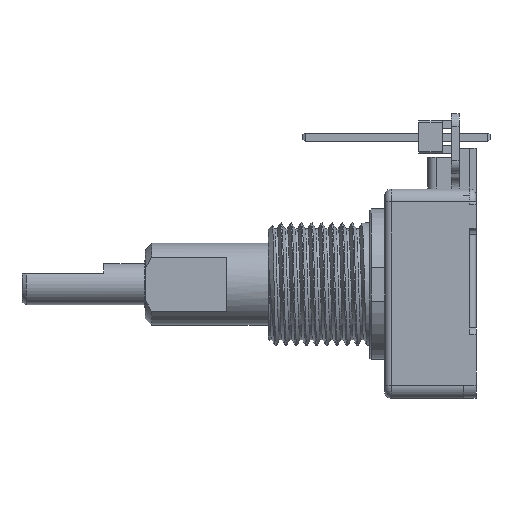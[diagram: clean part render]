
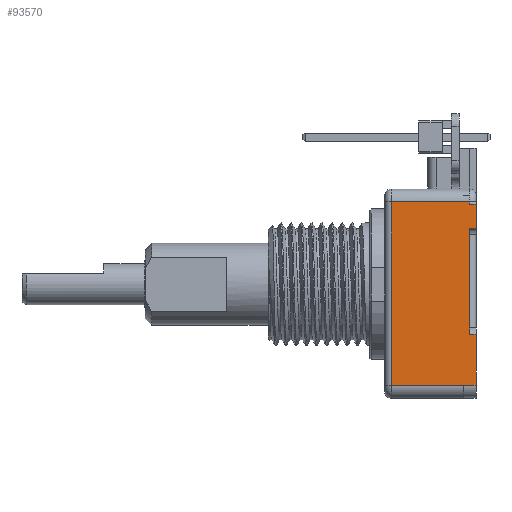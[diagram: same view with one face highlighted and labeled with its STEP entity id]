
A CAD part, left-side view. The second image highlights one B-rep face of the part: STEP entity #93570.
In plain terms, the highlighted planar face has unit normal (-1, 0, 0).
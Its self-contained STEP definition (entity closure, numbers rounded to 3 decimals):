
#57470=CARTESIAN_POINT('',(-6.2,-0.5,-7.87));
#57480=VERTEX_POINT('',#57470);
#58300=CARTESIAN_POINT('',(-6.2,-0.5,6.4));
#58310=VERTEX_POINT('',#58300);
#58340=CARTESIAN_POINT('',(-6.2,-0.5,-7.87));
#58350=DIRECTION('',(0.,0.,1.));
#58360=VECTOR('',#58350,1.);
#58370=LINE('',#58340,#58360);
#58380=EDGE_CURVE('',#57480,#58310,#58370,.T.);
#62470=CARTESIAN_POINT('',(-6.2,-6.6,6.4));
#62480=VERTEX_POINT('',#62470);
#62510=CARTESIAN_POINT('',(-6.2,-0.5,6.4));
#62520=DIRECTION('',(0.,-1.,0.));
#62530=VECTOR('',#62520,1.);
#62540=LINE('',#62510,#62530);
#62550=EDGE_CURVE('',#58310,#62480,#62540,.T.);
#64800=CARTESIAN_POINT('',(-6.2,-6.6,6.225));
#64810=VERTEX_POINT('',#64800);
#64840=CARTESIAN_POINT('',(-6.2,-6.6,6.4));
#64850=DIRECTION('',(0.,0.,-1.));
#64860=VECTOR('',#64850,1.);
#64870=LINE('',#64840,#64860);
#64880=EDGE_CURVE('',#62480,#64810,#64870,.T.);
#78370=CARTESIAN_POINT('',(-6.2,-7.1,-7.85));
#78380=VERTEX_POINT('',#78370);
#78410=CARTESIAN_POINT('',(-6.2,-7.1,-7.85));
#78420=DIRECTION('',(0.,0.,1.));
#78430=VECTOR('',#78420,1.);
#78440=LINE('',#78410,#78430);
#78450=CARTESIAN_POINT('',(-6.2,-7.1,-3.9));
#78460=VERTEX_POINT('',#78450);
#78470=EDGE_CURVE('',#78380,#78460,#78440,.T.);
#78870=CARTESIAN_POINT('',(-6.2,-7.1,4.35));
#78880=VERTEX_POINT('',#78870);
#78910=CARTESIAN_POINT('',(-6.2,-7.1,4.35));
#78920=DIRECTION('',(0.,0.,1.));
#78930=VECTOR('',#78920,1.);
#78940=LINE('',#78910,#78930);
#78950=CARTESIAN_POINT('',(-6.2,-7.1,6.225));
#78960=VERTEX_POINT('',#78950);
#78970=EDGE_CURVE('',#78880,#78960,#78940,.T.);
#92610=CARTESIAN_POINT('',(-6.2,-6.1,-7.87));
#92620=VERTEX_POINT('',#92610);
#92670=CARTESIAN_POINT('',(-6.2,-6.1,-7.87));
#92680=DIRECTION('',(0.,1.,0.));
#92690=VECTOR('',#92680,1.);
#92700=LINE('',#92670,#92690);
#92710=EDGE_CURVE('',#92620,#57480,#92700,.T.);
#92830=CARTESIAN_POINT('',(-6.2,-6.1,-7.87));
#92840=DIRECTION('',(-1.,0.,0.));
#92850=DIRECTION('',(0.,0.,1.));
#92860=AXIS2_PLACEMENT_3D('',#92830,#92840,#92850);
#92870=PLANE('',#92860);
#92880=CARTESIAN_POINT('',(-6.2,-6.6,-3.4));
#92890=DIRECTION('',(0.,0.,-1.));
#92900=VECTOR('',#92890,1.);
#92910=LINE('',#92880,#92900);
#92920=CARTESIAN_POINT('',(-6.2,-6.6,-3.4));
#92930=VERTEX_POINT('',#92920);
#92940=CARTESIAN_POINT('',(-6.2,-6.6,-3.9));
#92950=VERTEX_POINT('',#92940);
#92960=EDGE_CURVE('',#92930,#92950,#92910,.T.);
#92970=ORIENTED_EDGE('',*,*,#92960,.F.);
#92980=CARTESIAN_POINT('',(-6.2,-6.6,-3.9));
#92990=DIRECTION('',(0.,-1.,0.));
#93000=VECTOR('',#92990,1.);
#93010=LINE('',#92980,#93000);
#93020=EDGE_CURVE('',#92950,#78460,#93010,.T.);
#93030=ORIENTED_EDGE('',*,*,#93020,.F.);
#93040=ORIENTED_EDGE('',*,*,#78470,.T.);
#93050=CARTESIAN_POINT('',(-6.2,-7.1,-7.85));
#93060=DIRECTION('',(0.,1.,0.));
#93070=VECTOR('',#93060,1.);
#93080=LINE('',#93050,#93070);
#93090=CARTESIAN_POINT('',(-6.2,-6.1,-7.85));
#93100=VERTEX_POINT('',#93090);
#93110=EDGE_CURVE('',#78380,#93100,#93080,.T.);
#93120=ORIENTED_EDGE('',*,*,#93110,.F.);
#93130=CARTESIAN_POINT('',(-6.2,-6.1,-7.85));
#93140=CARTESIAN_POINT('',(-6.2,-6.1,-7.852));
#93150=CARTESIAN_POINT('',(-6.2,-6.1,-7.857));
#93160=CARTESIAN_POINT('',(-6.2,-6.1,-7.863));
#93170=CARTESIAN_POINT('',(-6.2,-6.1,-7.868));
#93180=CARTESIAN_POINT('',(-6.2,-6.1,-7.87));
#93190=B_SPLINE_CURVE_WITH_KNOTS('',3,(#93130,#93140,#93150,#93160,
#93170,#93180),.UNSPECIFIED.,.F.,.F.,(4,1,1,4),(0.,0.333,
0.667,1.),.UNSPECIFIED.);
#93200=EDGE_CURVE('',#93100,#92620,#93190,.T.);
#93210=ORIENTED_EDGE('',*,*,#93200,.F.);
#93220=ORIENTED_EDGE('',*,*,#92710,.F.);
#93230=ORIENTED_EDGE('',*,*,#58380,.F.);
#93240=ORIENTED_EDGE('',*,*,#62550,.F.);
#93250=ORIENTED_EDGE('',*,*,#64880,.F.);
#93260=CARTESIAN_POINT('',(-6.2,-6.6,6.225));
#93270=DIRECTION('',(0.,-1.,0.));
#93280=VECTOR('',#93270,1.);
#93290=LINE('',#93260,#93280);
#93300=EDGE_CURVE('',#64810,#78960,#93290,.T.);
#93310=ORIENTED_EDGE('',*,*,#93300,.F.);
#93320=ORIENTED_EDGE('',*,*,#78970,.T.);
#93330=CARTESIAN_POINT('',(-6.2,-6.6,4.35));
#93340=DIRECTION('',(0.,-1.,0.));
#93350=VECTOR('',#93340,1.);
#93360=LINE('',#93330,#93350);
#93370=CARTESIAN_POINT('',(-6.2,-6.6,4.35));
#93380=VERTEX_POINT('',#93370);
#93390=EDGE_CURVE('',#93380,#78880,#93360,.T.);
#93400=ORIENTED_EDGE('',*,*,#93390,.T.);
#93410=CARTESIAN_POINT('',(-6.2,-6.6,4.35));
#93420=DIRECTION('',(0.,0.,-1.));
#93430=VECTOR('',#93420,1.);
#93440=LINE('',#93410,#93430);
#93450=CARTESIAN_POINT('',(-6.2,-6.6,3.85));
#93460=VERTEX_POINT('',#93450);
#93470=EDGE_CURVE('',#93380,#93460,#93440,.T.);
#93480=ORIENTED_EDGE('',*,*,#93470,.F.);
#93490=CARTESIAN_POINT('',(-6.2,-6.6,3.85));
#93500=DIRECTION('',(0.,0.,-1.));
#93510=VECTOR('',#93500,1.);
#93520=LINE('',#93490,#93510);
#93530=EDGE_CURVE('',#93460,#92930,#93520,.T.);
#93540=ORIENTED_EDGE('',*,*,#93530,.F.);
#93550=EDGE_LOOP('',(#93540,#93480,#93400,#93320,#93310,#93250,#93240,
#93230,#93220,#93210,#93120,#93040,#93030,#92970));
#93560=FACE_OUTER_BOUND('',#93550,.T.);
#93570=ADVANCED_FACE('',(#93560),#92870,.T.);
